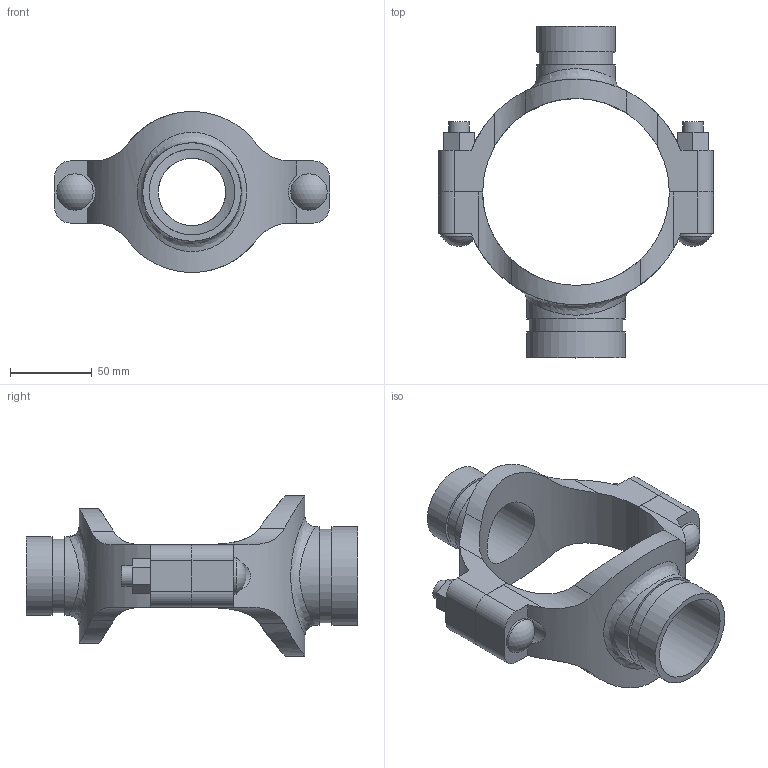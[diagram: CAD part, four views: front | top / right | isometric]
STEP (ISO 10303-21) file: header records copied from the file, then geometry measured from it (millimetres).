
FILE_DESCRIPTION(/* description */ ('VIC MECH-T BRANCH OUTLET CROSS STYLE 920N (GRVD)','CAx-IF Rec.Pracs.---Representation and Presentation of Product Manufacturing Information (PMI)---4.0---2014-10-13'),/* implementation_level */ '2;1');
FILE_NAME(/* name */ 'C:\Users\Vjadhav\AppData\Roaming\Autodesk\ApplicationPlugins\Back Up\Victaulic_IPS_Mechanical-Cross Outlet_Style 920N (OGS)\Victaulic_IPS_Mechanical-Cross Outlet_04.0x01.5x02.0 (100x40x50).stp',/* time_stamp */ '2020-08-06T19:43:47+05:00',/* author */ ('Vjadhav'),/* organization */ ('Victaulic'),/* preprocessor_version */ 'ST-DEVELOPER v17.2',/* originating_system */ 'Autodesk Inventor 2019',/* authorisation */ '');
FILE_SCHEMA (('AP242_MANAGED_MODEL_BASED_3D_ENGINEERING_MIM_LF { 1 0 10303 442 1 1 4 }'));
Length unit declared in the file: inch
Products named in the file (3): 920NG-04.0x01.5x02.0; 920NG-04.0x01.5; 920NG-04.0x02.0
Assembly tree (2 placements, depth 2):
  920NG-04.0x01.5x02.0
    920NG-04.0x01.5
    920NG-04.0x02.0
Bounding box: 168.4 x 203.2 x 98.44 mm (x, y, z)
Volume: 321305.1 mm3; surface area: 95532.3 mm2
Topology: 2 solids, 2 shells, 108 faces, 274 edges, 186 vertices
Faces by surface type: plane 54, cylinder 50, sphere 2, bspline 2
Full cylindrical faces by diameter (mm): 12.7 x4, 22.225 x2, 41.275 x1, 45.085 x1, 48.26 x2, 52.387 x1, 57.15 x1, 60.325 x2
Entity records: 4374 total; most frequent: CARTESIAN_POINT 1493, DIRECTION 552, ORIENTED_EDGE 548, EDGE_CURVE 274, AXIS2_PLACEMENT_3D 201, VERTEX_POINT 186, LINE 150, VECTOR 150
